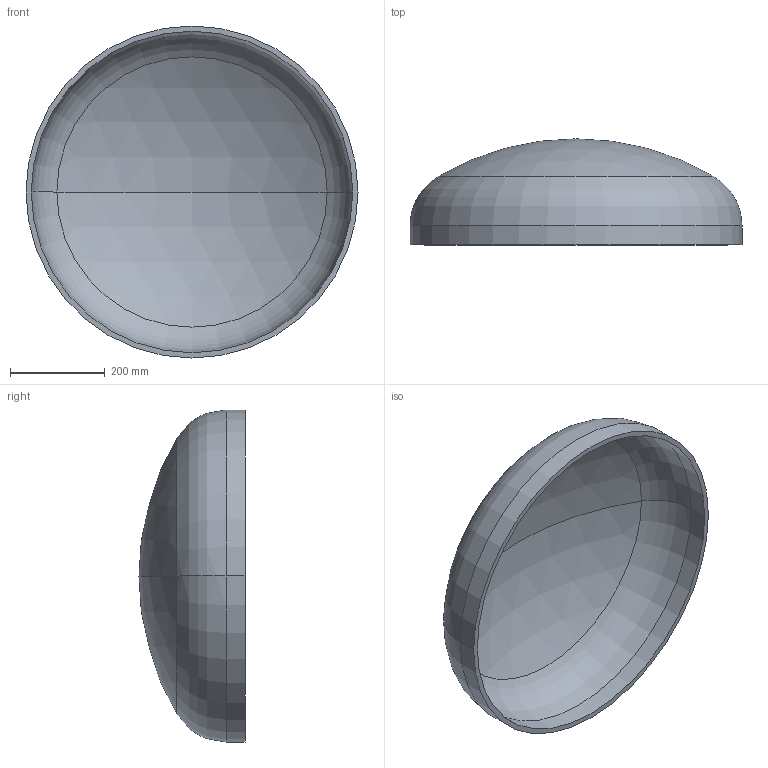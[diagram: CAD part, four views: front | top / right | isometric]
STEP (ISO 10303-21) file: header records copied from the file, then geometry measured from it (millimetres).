
FILE_DESCRIPTION (( 'STEP AP203' ), '1' );
FILE_NAME ('DIN 28013 Korbbogenform_-_Boden DIN 28013 - 700 x 40 - I - s=11.step', '2016-07-01T08:04:12', ( '' ), ( '' ), 'SwSTEP 2.0', 'SolidWorks 2013', '' );
FILE_SCHEMA (( 'CONFIG_CONTROL_DESIGN' ));
Length unit declared in the file: millimetre
Products named in the file (1): DIN 28013 Korbbogenform_-_Boden DIN 28013 - 700 x 40 - I - s=11
Bounding box: 700 x 223.63 x 700 mm (x, y, z)
Volume: 6718245.8 mm3; surface area: 1245562.4 mm2
Topology: 1 solids, 1 shells, 13 faces, 24 edges, 14 vertices
Faces by surface type: torus 4, cylinder 4, sphere 4, plane 1
Entity records: 407 total; most frequent: DIRECTION 72, CARTESIAN_POINT 52, ORIENTED_EDGE 48, AXIS2_PLACEMENT_3D 34, EDGE_CURVE 24, CIRCLE 20, EDGE_LOOP 14, VERTEX_POINT 14
